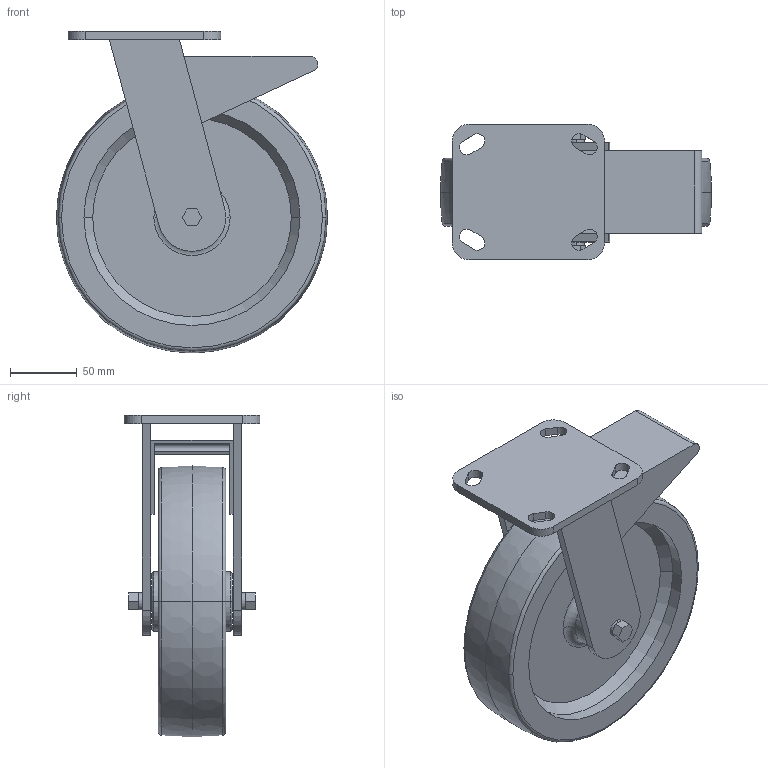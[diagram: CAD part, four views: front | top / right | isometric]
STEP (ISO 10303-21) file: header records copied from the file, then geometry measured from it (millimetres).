
FILE_DESCRIPTION (( 'STEP AP214' ), '1' );
FILE_NAME ('9.5in_1100lbs_Polyurethane Swivel and Brake Caster.STEP', '2025-06-10T16:29:27', ( '' ), ( '' ), 'SwSTEP 2.0', 'SolidWorks 2023', '' );
FILE_SCHEMA (( 'AUTOMOTIVE_DESIGN' ));
Length unit declared in the file: inch
Products named in the file (1): 9.5in_1100lbs_Polyurethane Swivel and Brake Caster
Bounding box: 203.2 x 101.6 x 241.3 mm (x, y, z)
Volume: 1270558.3 mm3; surface area: 207691.6 mm2
Topology: 4 solids, 4 shells, 110 faces, 262 edges, 168 vertices
Faces by surface type: plane 54, cylinder 36, torus 12, cone 8
Entity records: 3280 total; most frequent: DIRECTION 590, CARTESIAN_POINT 541, ORIENTED_EDGE 524, EDGE_CURVE 262, AXIS2_PLACEMENT_3D 217, VERTEX_POINT 168, VECTOR 156, LINE 156
